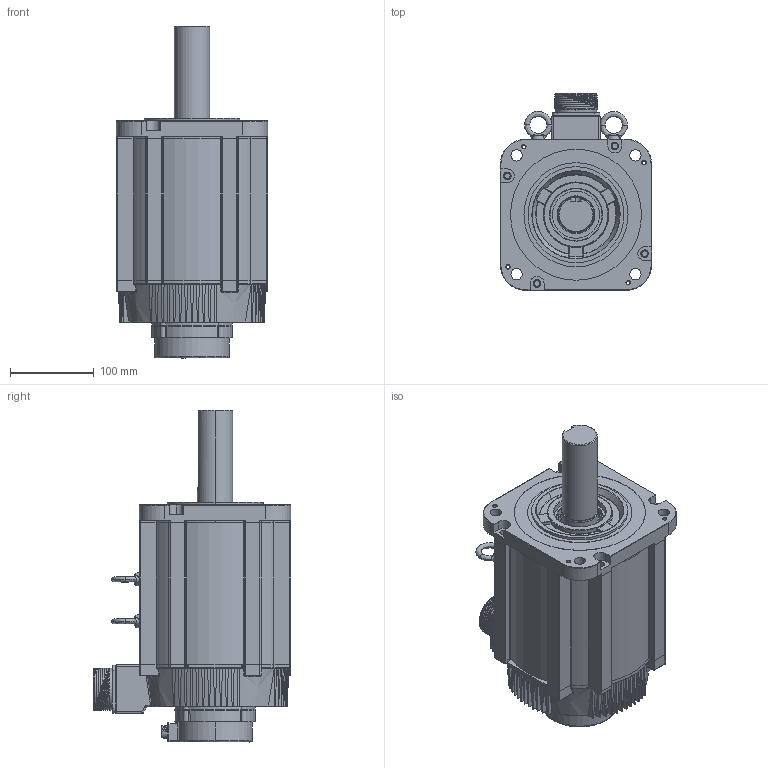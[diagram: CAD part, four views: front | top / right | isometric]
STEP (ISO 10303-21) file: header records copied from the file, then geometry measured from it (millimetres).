
FILE_DESCRIPTION (( 'STEP AP203' ), '1' );
FILE_NAME ('SMP-H750.STEP', '2021-05-04T05:57:51', ( '' ), ( '' ), 'SwSTEP 2.0', 'SolidWorks 2016', '' );
FILE_SCHEMA (( 'CONFIG_CONTROL_DESIGN' ));
Length unit declared in the file: millimetre
Products named in the file (1): SMP-H750
Bounding box: 180 x 234.8 x 395.3 mm (x, y, z)
Surface area: 356182 mm2 (no closed solid volume)
Topology: 0 solids, 14 shells, 997 faces, 2959 edges, 1885 vertices
Faces by surface type: cylinder 418, plane 259, bspline 207, cone 113
Entity records: 46161 total; most frequent: CARTESIAN_POINT 21219, ORIENTED_EDGE 5335, DIRECTION 4932, EDGE_CURVE 2912, AXIS2_PLACEMENT_3D 1930, VERTEX_POINT 1885, CIRCLE 1139, EDGE_LOOP 1078
